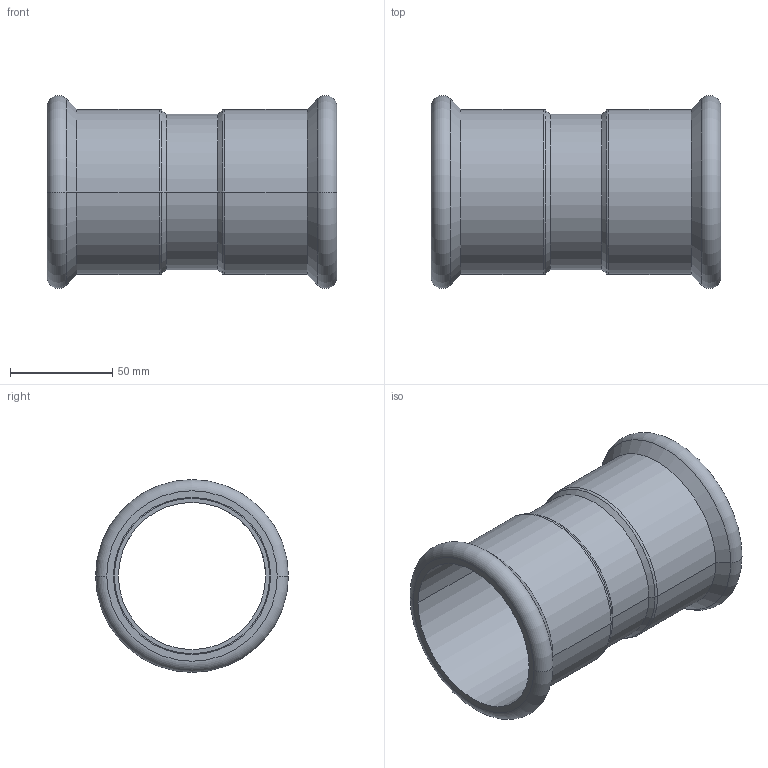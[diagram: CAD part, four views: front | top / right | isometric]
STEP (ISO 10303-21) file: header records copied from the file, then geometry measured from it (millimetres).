
FILE_DESCRIPTION(('CoCreate Modeling STEP Export'),'2;1');
FILE_NAME('C1401 76.1x76.1.stp','2014-11-06T16:51:44',(''),(''),'CoCreate Modeling STEP processor for AP214 (Solid Model)','CoCreate Modeling 17.00A 17-Jun-2010 (C) Parametric Technology GmbH','');
FILE_SCHEMA(('AUTOMOTIVE_DESIGN { 1 0 10303 214 1 1 1 1 }'));
Length unit declared in the file: millimetre
Products named in the file (2): C1401_76x76
Assembly tree (1 placements, depth 2):
  C1401_76x76
    C1401_76x76
Bounding box: 142 x 94.48 x 94.48 mm (x, y, z)
Volume: 107813.2 mm3; surface area: 77201.8 mm2
Topology: 1 solids, 1 shells, 38 faces, 78 edges, 46 vertices
Faces by surface type: cylinder 16, cone 8, torus 8, plane 6
Entity records: 861 total; most frequent: ORIENTED_EDGE 156, DIRECTION 132, CARTESIAN_POINT 124, EDGE_CURVE 78, AXIS2_PLACEMENT_3D 54, VERTEX_POINT 46, EDGE_LOOP 44, FACE_OUTER_BOUND 38
